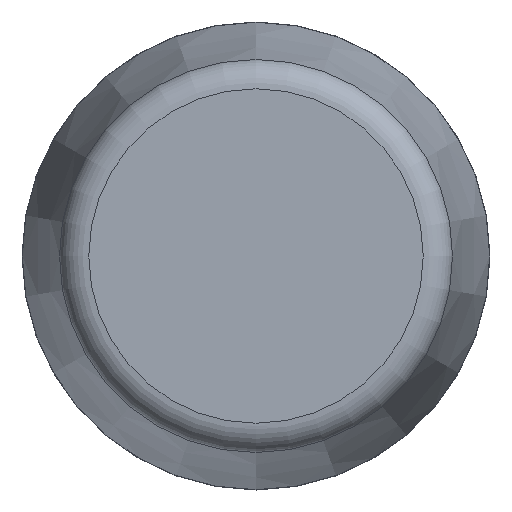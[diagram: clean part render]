
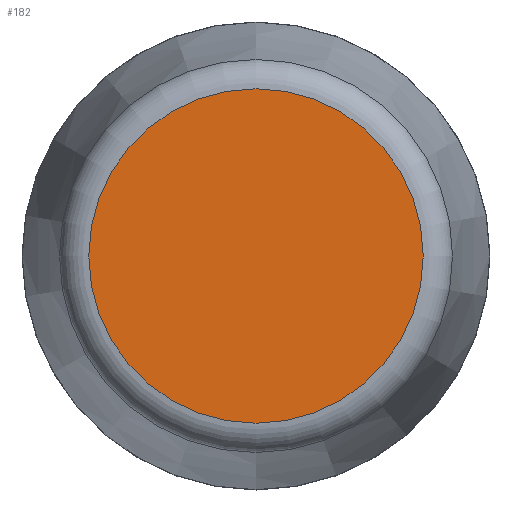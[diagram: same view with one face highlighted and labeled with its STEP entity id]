
A CAD part, front view. The second image highlights one B-rep face of the part: STEP entity #182.
In plain terms, the highlighted planar face has unit normal (0, -1, 0).
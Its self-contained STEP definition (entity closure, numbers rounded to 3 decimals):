
#182 = ADVANCED_FACE( '', ( #217 ), #218, .F. );
#217 = FACE_OUTER_BOUND( '', #292, .T. );
#218 = PLANE( '', #293 );
#292 = EDGE_LOOP( '', ( #368 ) );
#293 = AXIS2_PLACEMENT_3D( '', #369, #370, #371 );
#368 = ORIENTED_EDGE( '', *, *, #564, .T. );
#369 = CARTESIAN_POINT( '', ( 5.639, 0., 0. ) );
#370 = DIRECTION( '', ( 0., 1., 0. ) );
#371 = DIRECTION( '', ( 0., 0., 1. ) );
#564 = EDGE_CURVE( '', #619, #619, #620, .T. );
#619 = VERTEX_POINT( '', #707 );
#620 = CIRCLE( '', #708, 5.639 );
#707 = CARTESIAN_POINT( '', ( 0., 0., -5.639 ) );
#708 = AXIS2_PLACEMENT_3D( '', #922, #923, #924 );
#922 = CARTESIAN_POINT( '', ( 0., 0., 0. ) );
#923 = DIRECTION( '', ( 0., -1., 0. ) );
#924 = DIRECTION( '', ( 0., 0., -1. ) );
